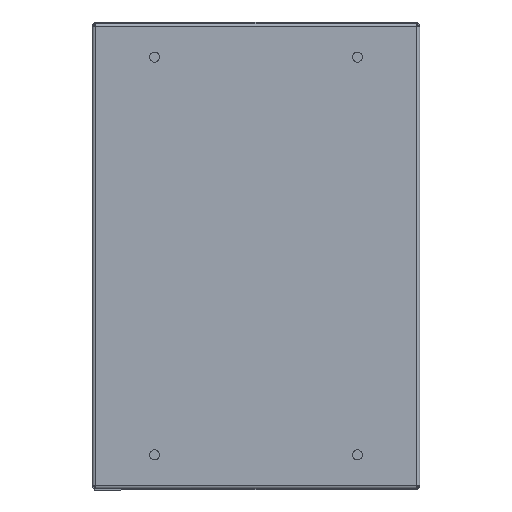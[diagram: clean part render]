
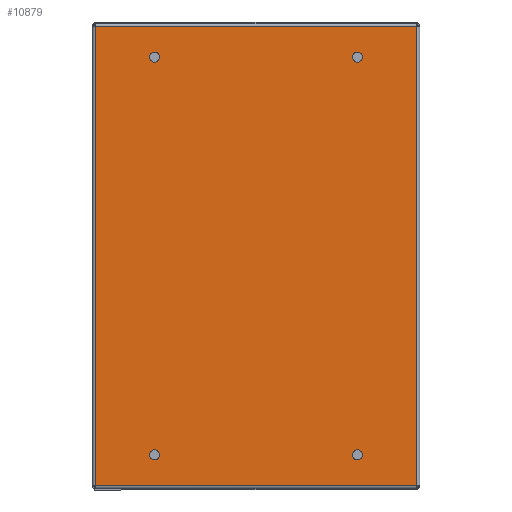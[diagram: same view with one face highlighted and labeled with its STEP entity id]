
A CAD part, front view. The second image highlights one B-rep face of the part: STEP entity #10879.
In plain terms, the highlighted planar face has unit normal (0, -1, 0).
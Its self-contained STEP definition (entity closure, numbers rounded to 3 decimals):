
#317 = AXIS2_PLACEMENT_3D ( 'NONE', #874, #12140, #9378 ) ;
#372 = EDGE_CURVE ( 'NONE', #8609, #10199, #3323, .T. ) ;
#442 = ORIENTED_EDGE ( 'NONE', *, *, #1964, .T. ) ;
#448 = DIRECTION ( 'NONE',  ( 0., 1., 0. ) ) ;
#546 = CIRCLE ( 'NONE', #4340, 3.25 ) ;
#616 = ORIENTED_EDGE ( 'NONE', *, *, #372, .T. ) ;
#662 = CARTESIAN_POINT ( 'NONE',  ( -103., 0., -147.2 ) ) ;
#795 = AXIS2_PLACEMENT_3D ( 'NONE', #1498, #5236, #2273 ) ;
#874 = CARTESIAN_POINT ( 'NONE',  ( -65., 0., -127.5 ) ) ;
#963 = EDGE_CURVE ( 'NONE', #6701, #1131, #3205, .T. ) ;
#996 = EDGE_LOOP ( 'NONE', ( #12315, #1303 ) ) ;
#1098 = CIRCLE ( 'NONE', #10086, 3.25 ) ;
#1131 = VERTEX_POINT ( 'NONE', #9412 ) ;
#1303 = ORIENTED_EDGE ( 'NONE', *, *, #8772, .T. ) ;
#1400 = EDGE_LOOP ( 'NONE', ( #2985, #442, #11383, #7608 ) ) ;
#1498 = CARTESIAN_POINT ( 'NONE',  ( -103., 0., -149.2 ) ) ;
#1680 = VERTEX_POINT ( 'NONE', #10471 ) ;
#1964 = EDGE_CURVE ( 'NONE', #1131, #7534, #8494, .T. ) ;
#1989 = VERTEX_POINT ( 'NONE', #11462 ) ;
#2273 = DIRECTION ( 'NONE',  ( -1., 0., 0. ) ) ;
#2375 = VECTOR ( 'NONE', #6670, 1000. ) ;
#2553 = FACE_BOUND ( 'NONE', #6266, .T. ) ;
#2985 = ORIENTED_EDGE ( 'NONE', *, *, #963, .T. ) ;
#3131 = FACE_OUTER_BOUND ( 'NONE', #1400, .T. ) ;
#3205 = LINE ( 'NONE', #662, #10938 ) ;
#3281 = FACE_BOUND ( 'NONE', #5596, .T. ) ;
#3323 = CIRCLE ( 'NONE', #6874, 3.25 ) ;
#3426 = CARTESIAN_POINT ( 'NONE',  ( -65., 0., 127.5 ) ) ;
#3470 = CARTESIAN_POINT ( 'NONE',  ( -61.75, 0., -127.5 ) ) ;
#3627 = EDGE_CURVE ( 'NONE', #6701, #1989, #5781, .T. ) ;
#4340 = AXIS2_PLACEMENT_3D ( 'NONE', #10151, #12156, #10190 ) ;
#4455 = VERTEX_POINT ( 'NONE', #3470 ) ;
#4619 = DIRECTION ( 'NONE',  ( -1., 0., 0. ) ) ;
#4661 = CARTESIAN_POINT ( 'NONE',  ( 103., 0., 147.2 ) ) ;
#4678 = CARTESIAN_POINT ( 'NONE',  ( -103., 0., -147.2 ) ) ;
#4873 = ORIENTED_EDGE ( 'NONE', *, *, #6135, .T. ) ;
#4945 = DIRECTION ( 'NONE',  ( 0., 1., 0. ) ) ;
#5025 = EDGE_CURVE ( 'NONE', #4455, #5162, #5356, .T. ) ;
#5048 = FACE_BOUND ( 'NONE', #7737, .T. ) ;
#5162 = VERTEX_POINT ( 'NONE', #6893 ) ;
#5236 = DIRECTION ( 'NONE',  ( 0., -1., 0. ) ) ;
#5284 = VERTEX_POINT ( 'NONE', #11040 ) ;
#5345 = DIRECTION ( 'NONE',  ( -1., 0., 0. ) ) ;
#5356 = CIRCLE ( 'NONE', #317, 3.25 ) ;
#5382 = ORIENTED_EDGE ( 'NONE', *, *, #5025, .T. ) ;
#5596 = EDGE_LOOP ( 'NONE', ( #8157, #4873 ) ) ;
#5781 = LINE ( 'NONE', #4678, #8926 ) ;
#5965 = VECTOR ( 'NONE', #11336, 1000. ) ;
#6106 = CARTESIAN_POINT ( 'NONE',  ( -103., 0., -147.2 ) ) ;
#6135 = EDGE_CURVE ( 'NONE', #9454, #1680, #10516, .T. ) ;
#6203 = LINE ( 'NONE', #11482, #2375 ) ;
#6266 = EDGE_LOOP ( 'NONE', ( #616, #12282 ) ) ;
#6547 = DIRECTION ( 'NONE',  ( -1., 0., 0. ) ) ;
#6670 = DIRECTION ( 'NONE',  ( -1., 0., 0. ) ) ;
#6701 = VERTEX_POINT ( 'NONE', #6106 ) ;
#6733 = DIRECTION ( 'NONE',  ( 1., 0., 0. ) ) ;
#6765 = DIRECTION ( 'NONE',  ( 0., 0., 1. ) ) ;
#6874 = AXIS2_PLACEMENT_3D ( 'NONE', #3426, #7252, #11940 ) ;
#6893 = CARTESIAN_POINT ( 'NONE',  ( -68.25, 0., -127.5 ) ) ;
#6953 = ORIENTED_EDGE ( 'NONE', *, *, #8521, .T. ) ;
#7252 = DIRECTION ( 'NONE',  ( 0., 1., 0. ) ) ;
#7288 = DIRECTION ( 'NONE',  ( 1., 0., 0. ) ) ;
#7376 = EDGE_CURVE ( 'NONE', #5284, #11155, #7467, .T. ) ;
#7467 = CIRCLE ( 'NONE', #9411, 3.25 ) ;
#7527 = CARTESIAN_POINT ( 'NONE',  ( 65., 0., 127.5 ) ) ;
#7532 = CARTESIAN_POINT ( 'NONE',  ( 68.25, 0., 127.5 ) ) ;
#7534 = VERTEX_POINT ( 'NONE', #4661 ) ;
#7608 = ORIENTED_EDGE ( 'NONE', *, *, #3627, .F. ) ;
#7638 = CARTESIAN_POINT ( 'NONE',  ( 65., 0., -127.5 ) ) ;
#7693 = CIRCLE ( 'NONE', #7775, 3.25 ) ;
#7723 = CARTESIAN_POINT ( 'NONE',  ( -68.25, 0., 127.5 ) ) ;
#7737 = EDGE_LOOP ( 'NONE', ( #5382, #6953 ) ) ;
#7775 = AXIS2_PLACEMENT_3D ( 'NONE', #10548, #10628, #6733 ) ;
#7990 = PLANE ( 'NONE',  #795 ) ;
#8157 = ORIENTED_EDGE ( 'NONE', *, *, #10045, .T. ) ;
#8410 = EDGE_CURVE ( 'NONE', #10199, #8609, #7693, .T. ) ;
#8494 = LINE ( 'NONE', #8677, #5965 ) ;
#8521 = EDGE_CURVE ( 'NONE', #5162, #4455, #546, .T. ) ;
#8609 = VERTEX_POINT ( 'NONE', #12116 ) ;
#8677 = CARTESIAN_POINT ( 'NONE',  ( 103., 0., -147.2 ) ) ;
#8772 = EDGE_CURVE ( 'NONE', #11155, #5284, #10043, .T. ) ;
#8926 = VECTOR ( 'NONE', #6765, 1000. ) ;
#9378 = DIRECTION ( 'NONE',  ( 1., 0., 0. ) ) ;
#9411 = AXIS2_PLACEMENT_3D ( 'NONE', #7527, #12240, #6547 ) ;
#9412 = CARTESIAN_POINT ( 'NONE',  ( 103., 0., -147.2 ) ) ;
#9418 = AXIS2_PLACEMENT_3D ( 'NONE', #9562, #4945, #10512 ) ;
#9454 = VERTEX_POINT ( 'NONE', #11208 ) ;
#9562 = CARTESIAN_POINT ( 'NONE',  ( 65., 0., 127.5 ) ) ;
#10043 = CIRCLE ( 'NONE', #9418, 3.25 ) ;
#10045 = EDGE_CURVE ( 'NONE', #1680, #9454, #1098, .T. ) ;
#10086 = AXIS2_PLACEMENT_3D ( 'NONE', #7638, #12314, #4619 ) ;
#10151 = CARTESIAN_POINT ( 'NONE',  ( -65., 0., -127.5 ) ) ;
#10190 = DIRECTION ( 'NONE',  ( 1., 0., 0. ) ) ;
#10193 = AXIS2_PLACEMENT_3D ( 'NONE', #11917, #448, #5345 ) ;
#10199 = VERTEX_POINT ( 'NONE', #7723 ) ;
#10471 = CARTESIAN_POINT ( 'NONE',  ( 61.75, 0., -127.5 ) ) ;
#10512 = DIRECTION ( 'NONE',  ( -1., 0., 0. ) ) ;
#10516 = CIRCLE ( 'NONE', #10193, 3.25 ) ;
#10548 = CARTESIAN_POINT ( 'NONE',  ( -65., 0., 127.5 ) ) ;
#10628 = DIRECTION ( 'NONE',  ( 0., 1., 0. ) ) ;
#10879 = ADVANCED_FACE ( 'NONE', ( #3131, #5048, #2553, #11910, #3281 ), #7990, .T. ) ;
#10938 = VECTOR ( 'NONE', #7288, 1000. ) ;
#11040 = CARTESIAN_POINT ( 'NONE',  ( 61.75, 0., 127.5 ) ) ;
#11155 = VERTEX_POINT ( 'NONE', #7532 ) ;
#11208 = CARTESIAN_POINT ( 'NONE',  ( 68.25, 0., -127.5 ) ) ;
#11336 = DIRECTION ( 'NONE',  ( 0., 0., 1. ) ) ;
#11383 = ORIENTED_EDGE ( 'NONE', *, *, #11625, .T. ) ;
#11462 = CARTESIAN_POINT ( 'NONE',  ( -103., 0., 147.2 ) ) ;
#11482 = CARTESIAN_POINT ( 'NONE',  ( 103., 0., 147.2 ) ) ;
#11625 = EDGE_CURVE ( 'NONE', #7534, #1989, #6203, .T. ) ;
#11910 = FACE_BOUND ( 'NONE', #996, .T. ) ;
#11917 = CARTESIAN_POINT ( 'NONE',  ( 65., 0., -127.5 ) ) ;
#11940 = DIRECTION ( 'NONE',  ( 1., 0., 0. ) ) ;
#12116 = CARTESIAN_POINT ( 'NONE',  ( -61.75, 0., 127.5 ) ) ;
#12140 = DIRECTION ( 'NONE',  ( 0., 1., 0. ) ) ;
#12156 = DIRECTION ( 'NONE',  ( 0., 1., 0. ) ) ;
#12240 = DIRECTION ( 'NONE',  ( 0., 1., 0. ) ) ;
#12282 = ORIENTED_EDGE ( 'NONE', *, *, #8410, .T. ) ;
#12314 = DIRECTION ( 'NONE',  ( 0., 1., 0. ) ) ;
#12315 = ORIENTED_EDGE ( 'NONE', *, *, #7376, .T. ) ;
